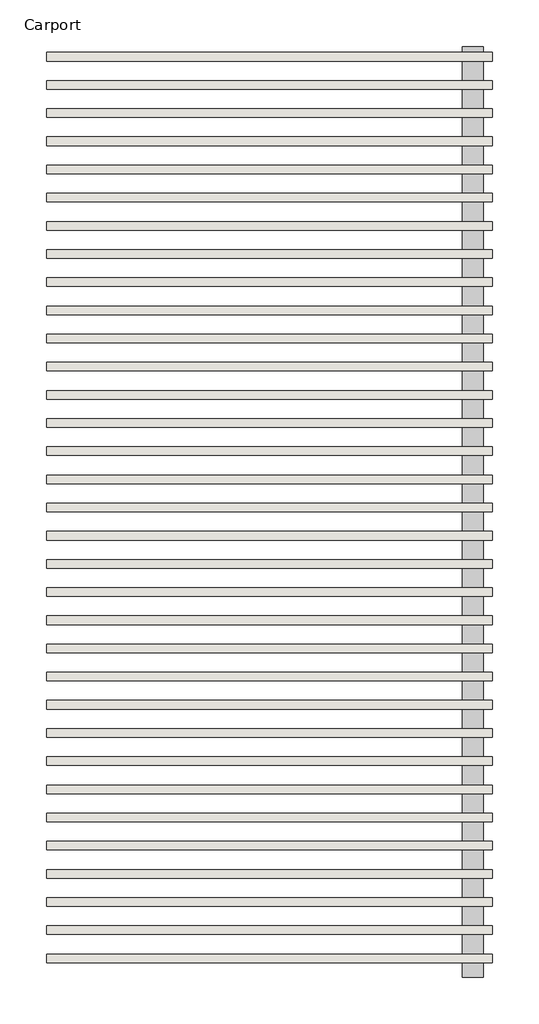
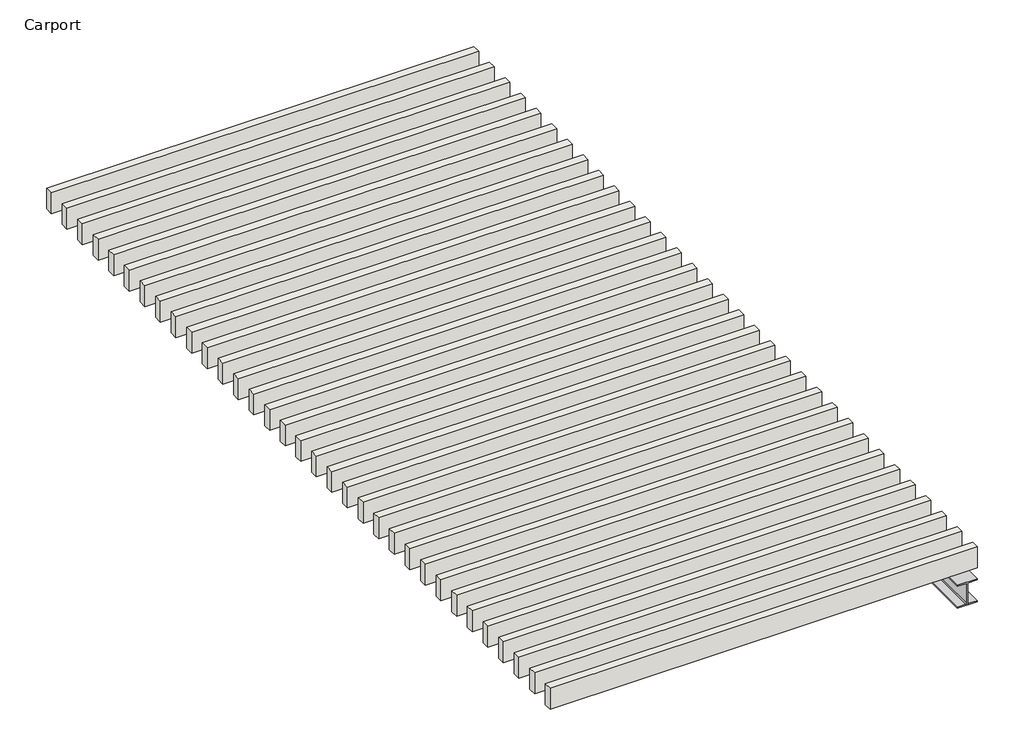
# One storey: 33 walls, 1 beam.
"""IFC4 building model written with IfcOpenShell, lengths in millimetres."""

from ifc_helpers import new_model, si_unit, frame, origin, place, context, project, spatial, polyline, outline, extrude, transform, mapped, element, save
from components import ub_universal_beam_305x165x40ub_3905f666

model = new_model("IFC4")

# Units and contexts
model_context = context("Model", 3, world=origin())
ifc_project = project(units=[si_unit("LENGTHUNIT", "METRE", prefix="MILLI")], contexts=[model_context])

# Site, building, storey
site = spatial("IfcSite", under=ifc_project)
building = spatial("IfcBuilding", under=site)
storey = spatial("IfcBuildingStorey", under=building, Name="Carport", Elevation=2600.0)

# Beam
placement = place(None, origin())
ub_universal_beam_305x165x40ub_shape = ub_universal_beam_305x165x40ub_3905f666(model_context)
element("IfcBeam", 1, ObjectType="UB-Universal Beam : 305x165x40UB", at=placement, inside=storey, context=model_context, shape_type="MappedRepresentation", body=[
    mapped(ub_universal_beam_305x165x40ub_shape, transform((-16337.1447021, 13595.7254063, 2500.0), x_axis=(0.0, -1.0, 0.0), y_axis=(1.0, 0.0, 0.0), z_axis=(0.0, 0.0, 1.0))),
])

# Walls
element("IfcWall", 2, ObjectType="Interior - 79mm Partition (1-hr)", at=placement, inside=storey, context=model_context, shape_type="SweptSolid", body=[
    extrude(outline(polyline([(-19669.4697576, 17333.8504063), (-16187.1447021, 17333.8504063), (-16187.1447021, 17266.8504063), (-19669.4697576, 17266.8504063), (-19669.4697576, 17333.8504063)])), frame((0.0, 0.0, 2600.0), z_axis=(0.0, 0.0, 1.0), x_axis=(1.0, 0.0, 0.0)), (0.0, 0.0, 1.0), 180.0),
])
element("IfcWall", 3, ObjectType="Interior - 79mm Partition (1-hr)", at=placement, inside=storey, context=model_context, shape_type="SweptSolid", body=[
    extrude(outline(polyline([(-19669.4697576, 17113.8504063), (-16187.1447021, 17113.8504063), (-16187.1447021, 17046.8504063), (-19669.4697576, 17046.8504063), (-19669.4697576, 17113.8504063)])), frame((0.0, 0.0, 2600.0), z_axis=(0.0, 0.0, 1.0), x_axis=(1.0, 0.0, 0.0)), (0.0, 0.0, 1.0), 180.0),
])
element("IfcWall", 4, ObjectType="Interior - 79mm Partition (1-hr)", at=placement, inside=storey, context=model_context, shape_type="SweptSolid", body=[
    extrude(outline(polyline([(-19669.4697576, 16893.8504063), (-16187.1447021, 16893.8504063), (-16187.1447021, 16826.8504063), (-19669.4697576, 16826.8504063), (-19669.4697576, 16893.8504063)])), frame((0.0, 0.0, 2600.0), z_axis=(0.0, 0.0, 1.0), x_axis=(1.0, 0.0, 0.0)), (0.0, 0.0, 1.0), 180.0),
])
element("IfcWall", 5, ObjectType="Interior - 79mm Partition (1-hr)", at=placement, inside=storey, context=model_context, shape_type="SweptSolid", body=[
    extrude(outline(polyline([(-19669.4697576, 16673.8504063), (-16187.1447021, 16673.8504063), (-16187.1447021, 16606.8504063), (-19669.4697576, 16606.8504063), (-19669.4697576, 16673.8504063)])), frame((0.0, 0.0, 2600.0), z_axis=(0.0, 0.0, 1.0), x_axis=(1.0, 0.0, 0.0)), (0.0, 0.0, 1.0), 180.0),
])
element("IfcWall", 6, ObjectType="Interior - 79mm Partition (1-hr)", at=placement, inside=storey, context=model_context, shape_type="SweptSolid", body=[
    extrude(outline(polyline([(-19669.4697576, 16453.8504063), (-16187.1447021, 16453.8504063), (-16187.1447021, 16386.8504063), (-19669.4697576, 16386.8504063), (-19669.4697576, 16453.8504063)])), frame((0.0, 0.0, 2600.0), z_axis=(0.0, 0.0, 1.0), x_axis=(1.0, 0.0, 0.0)), (0.0, 0.0, 1.0), 180.0),
])
element("IfcWall", 7, ObjectType="Interior - 79mm Partition (1-hr)", at=placement, inside=storey, context=model_context, shape_type="SweptSolid", body=[
    extrude(outline(polyline([(-19669.4697576, 16233.8504063), (-16187.1447021, 16233.8504063), (-16187.1447021, 16166.8504063), (-19669.4697576, 16166.8504063), (-19669.4697576, 16233.8504063)])), frame((0.0, 0.0, 2600.0), z_axis=(0.0, 0.0, 1.0), x_axis=(1.0, 0.0, 0.0)), (0.0, 0.0, 1.0), 180.0),
])
element("IfcWall", 8, ObjectType="Interior - 79mm Partition (1-hr)", at=placement, inside=storey, context=model_context, shape_type="SweptSolid", body=[
    extrude(outline(polyline([(-19669.4697576, 16013.8504063), (-16187.1447021, 16013.8504063), (-16187.1447021, 15946.8504063), (-19669.4697576, 15946.8504063), (-19669.4697576, 16013.8504063)])), frame((0.0, 0.0, 2600.0), z_axis=(0.0, 0.0, 1.0), x_axis=(1.0, 0.0, 0.0)), (0.0, 0.0, 1.0), 180.0),
])
element("IfcWall", 9, ObjectType="Interior - 79mm Partition (1-hr)", at=placement, inside=storey, context=model_context, shape_type="SweptSolid", body=[
    extrude(outline(polyline([(-19669.4697576, 15793.8504063), (-16187.1447021, 15793.8504063), (-16187.1447021, 15726.8504063), (-19669.4697576, 15726.8504063), (-19669.4697576, 15793.8504063)])), frame((0.0, 0.0, 2600.0), z_axis=(0.0, 0.0, 1.0), x_axis=(1.0, 0.0, 0.0)), (0.0, 0.0, 1.0), 180.0),
])
element("IfcWall", 10, ObjectType="Interior - 79mm Partition (1-hr)", at=placement, inside=storey, context=model_context, shape_type="SweptSolid", body=[
    extrude(outline(polyline([(-19669.4697576, 15573.8504063), (-16187.1447021, 15573.8504063), (-16187.1447021, 15506.8504063), (-19669.4697576, 15506.8504063), (-19669.4697576, 15573.8504063)])), frame((0.0, 0.0, 2600.0), z_axis=(0.0, 0.0, 1.0), x_axis=(1.0, 0.0, 0.0)), (0.0, 0.0, 1.0), 180.0),
])
element("IfcWall", 11, ObjectType="Interior - 79mm Partition (1-hr)", at=placement, inside=storey, context=model_context, shape_type="SweptSolid", body=[
    extrude(outline(polyline([(-19669.4697576, 15353.8504063), (-16187.1447021, 15353.8504063), (-16187.1447021, 15286.8504063), (-19669.4697576, 15286.8504063), (-19669.4697576, 15353.8504063)])), frame((0.0, 0.0, 2600.0), z_axis=(0.0, 0.0, 1.0), x_axis=(1.0, 0.0, 0.0)), (0.0, 0.0, 1.0), 180.0),
])
element("IfcWall", 12, ObjectType="Interior - 79mm Partition (1-hr)", at=placement, inside=storey, context=model_context, shape_type="SweptSolid", body=[
    extrude(outline(polyline([(-19669.4697576, 15133.8504063), (-16187.1447021, 15133.8504063), (-16187.1447021, 15066.8504063), (-19669.4697576, 15066.8504063), (-19669.4697576, 15133.8504063)])), frame((0.0, 0.0, 2600.0), z_axis=(0.0, 0.0, 1.0), x_axis=(1.0, 0.0, 0.0)), (0.0, 0.0, 1.0), 180.0),
])
element("IfcWall", 13, ObjectType="Interior - 79mm Partition (1-hr)", at=placement, inside=storey, context=model_context, shape_type="SweptSolid", body=[
    extrude(outline(polyline([(-19669.4697576, 14913.8504063), (-16187.1447021, 14913.8504063), (-16187.1447021, 14846.8504063), (-19669.4697576, 14846.8504063), (-19669.4697576, 14913.8504063)])), frame((0.0, 0.0, 2600.0), z_axis=(0.0, 0.0, 1.0), x_axis=(1.0, 0.0, 0.0)), (0.0, 0.0, 1.0), 180.0),
])
element("IfcWall", 14, ObjectType="Interior - 79mm Partition (1-hr)", at=placement, inside=storey, context=model_context, shape_type="SweptSolid", body=[
    extrude(outline(polyline([(-19669.4697576, 14693.8504063), (-16187.1447021, 14693.8504063), (-16187.1447021, 14626.8504063), (-19669.4697576, 14626.8504063), (-19669.4697576, 14693.8504063)])), frame((0.0, 0.0, 2600.0), z_axis=(0.0, 0.0, 1.0), x_axis=(1.0, 0.0, 0.0)), (0.0, 0.0, 1.0), 180.0),
])
element("IfcWall", 15, ObjectType="Interior - 79mm Partition (1-hr)", at=placement, inside=storey, context=model_context, shape_type="SweptSolid", body=[
    extrude(outline(polyline([(-19669.4697576, 14473.8504063), (-16187.1447021, 14473.8504063), (-16187.1447021, 14406.8504063), (-19669.4697576, 14406.8504063), (-19669.4697576, 14473.8504063)])), frame((0.0, 0.0, 2600.0), z_axis=(0.0, 0.0, 1.0), x_axis=(1.0, 0.0, 0.0)), (0.0, 0.0, 1.0), 180.0),
])
element("IfcWall", 16, ObjectType="Interior - 79mm Partition (1-hr)", at=placement, inside=storey, context=model_context, shape_type="SweptSolid", body=[
    extrude(outline(polyline([(-19669.4697576, 14253.8504063), (-16187.1447021, 14253.8504063), (-16187.1447021, 14186.8504063), (-19669.4697576, 14186.8504063), (-19669.4697576, 14253.8504063)])), frame((0.0, 0.0, 2600.0), z_axis=(0.0, 0.0, 1.0), x_axis=(1.0, 0.0, 0.0)), (0.0, 0.0, 1.0), 180.0),
])
element("IfcWall", 17, ObjectType="Interior - 79mm Partition (1-hr)", at=placement, inside=storey, context=model_context, shape_type="SweptSolid", body=[
    extrude(outline(polyline([(-19669.4697576, 14033.8504063), (-16187.1447021, 14033.8504063), (-16187.1447021, 13966.8504063), (-19669.4697576, 13966.8504063), (-19669.4697576, 14033.8504063)])), frame((0.0, 0.0, 2600.0), z_axis=(0.0, 0.0, 1.0), x_axis=(1.0, 0.0, 0.0)), (0.0, 0.0, 1.0), 180.0),
])
element("IfcWall", 18, ObjectType="Interior - 79mm Partition (1-hr)", at=placement, inside=storey, context=model_context, shape_type="SweptSolid", body=[
    extrude(outline(polyline([(-19669.4697576, 13813.8504063), (-16187.1447021, 13813.8504063), (-16187.1447021, 13746.8504063), (-19669.4697576, 13746.8504063), (-19669.4697576, 13813.8504063)])), frame((0.0, 0.0, 2600.0), z_axis=(0.0, 0.0, 1.0), x_axis=(1.0, 0.0, 0.0)), (0.0, 0.0, 1.0), 180.0),
])
element("IfcWall", 19, ObjectType="Interior - 79mm Partition (1-hr)", at=placement, inside=storey, context=model_context, shape_type="SweptSolid", body=[
    extrude(outline(polyline([(-19669.4697576, 13593.8504063), (-16187.1447021, 13593.8504063), (-16187.1447021, 13526.8504063), (-19669.4697576, 13526.8504063), (-19669.4697576, 13593.8504063)])), frame((0.0, 0.0, 2600.0), z_axis=(0.0, 0.0, 1.0), x_axis=(1.0, 0.0, 0.0)), (0.0, 0.0, 1.0), 180.0),
])
element("IfcWall", 20, ObjectType="Interior - 79mm Partition (1-hr)", at=placement, inside=storey, context=model_context, shape_type="SweptSolid", body=[
    extrude(outline(polyline([(-19669.4697576, 13373.8504063), (-16187.1447021, 13373.8504063), (-16187.1447021, 13306.8504063), (-19669.4697576, 13306.8504063), (-19669.4697576, 13373.8504063)])), frame((0.0, 0.0, 2600.0), z_axis=(0.0, 0.0, 1.0), x_axis=(1.0, 0.0, 0.0)), (0.0, 0.0, 1.0), 180.0),
])
element("IfcWall", 21, ObjectType="Interior - 79mm Partition (1-hr)", at=placement, inside=storey, context=model_context, shape_type="SweptSolid", body=[
    extrude(outline(polyline([(-19669.4697576, 13153.8504063), (-16187.1447021, 13153.8504063), (-16187.1447021, 13086.8504063), (-19669.4697576, 13086.8504063), (-19669.4697576, 13153.8504063)])), frame((0.0, 0.0, 2600.0), z_axis=(0.0, 0.0, 1.0), x_axis=(1.0, 0.0, 0.0)), (0.0, 0.0, 1.0), 180.0),
])
element("IfcWall", 22, ObjectType="Interior - 79mm Partition (1-hr)", at=placement, inside=storey, context=model_context, shape_type="SweptSolid", body=[
    extrude(outline(polyline([(-19669.4697576, 12933.8504063), (-16187.1447021, 12933.8504063), (-16187.1447021, 12866.8504063), (-19669.4697576, 12866.8504063), (-19669.4697576, 12933.8504063)])), frame((0.0, 0.0, 2600.0), z_axis=(0.0, 0.0, 1.0), x_axis=(1.0, 0.0, 0.0)), (0.0, 0.0, 1.0), 180.0),
])
element("IfcWall", 23, ObjectType="Interior - 79mm Partition (1-hr)", at=placement, inside=storey, context=model_context, shape_type="SweptSolid", body=[
    extrude(outline(polyline([(-19669.4697576, 12713.8504063), (-16187.1447021, 12713.8504063), (-16187.1447021, 12646.8504063), (-19669.4697576, 12646.8504063), (-19669.4697576, 12713.8504063)])), frame((0.0, 0.0, 2600.0), z_axis=(0.0, 0.0, 1.0), x_axis=(1.0, 0.0, 0.0)), (0.0, 0.0, 1.0), 180.0),
])
element("IfcWall", 24, ObjectType="Interior - 79mm Partition (1-hr)", at=placement, inside=storey, context=model_context, shape_type="SweptSolid", body=[
    extrude(outline(polyline([(-19669.4697576, 12493.8504063), (-16187.1447021, 12493.8504063), (-16187.1447021, 12426.8504063), (-19669.4697576, 12426.8504063), (-19669.4697576, 12493.8504063)])), frame((0.0, 0.0, 2600.0), z_axis=(0.0, 0.0, 1.0), x_axis=(1.0, 0.0, 0.0)), (0.0, 0.0, 1.0), 180.0),
])
element("IfcWall", 25, ObjectType="Interior - 79mm Partition (1-hr)", at=placement, inside=storey, context=model_context, shape_type="SweptSolid", body=[
    extrude(outline(polyline([(-19669.4697576, 12273.8504063), (-16187.1447021, 12273.8504063), (-16187.1447021, 12206.8504063), (-19669.4697576, 12206.8504063), (-19669.4697576, 12273.8504063)])), frame((0.0, 0.0, 2600.0), z_axis=(0.0, 0.0, 1.0), x_axis=(1.0, 0.0, 0.0)), (0.0, 0.0, 1.0), 180.0),
])
element("IfcWall", 26, ObjectType="Interior - 79mm Partition (1-hr)", at=placement, inside=storey, context=model_context, shape_type="SweptSolid", body=[
    extrude(outline(polyline([(-19669.4697576, 12053.8504063), (-16187.1447021, 12053.8504063), (-16187.1447021, 11986.8504063), (-19669.4697576, 11986.8504063), (-19669.4697576, 12053.8504063)])), frame((0.0, 0.0, 2600.0), z_axis=(0.0, 0.0, 1.0), x_axis=(1.0, 0.0, 0.0)), (0.0, 0.0, 1.0), 180.0),
])
element("IfcWall", 27, ObjectType="Interior - 79mm Partition (1-hr)", at=placement, inside=storey, context=model_context, shape_type="SweptSolid", body=[
    extrude(outline(polyline([(-19669.4697576, 11833.8504063), (-16187.1447021, 11833.8504063), (-16187.1447021, 11766.8504063), (-19669.4697576, 11766.8504063), (-19669.4697576, 11833.8504063)])), frame((0.0, 0.0, 2600.0), z_axis=(0.0, 0.0, 1.0), x_axis=(1.0, 0.0, 0.0)), (0.0, 0.0, 1.0), 180.0),
])
element("IfcWall", 28, ObjectType="Interior - 79mm Partition (1-hr)", at=placement, inside=storey, context=model_context, shape_type="SweptSolid", body=[
    extrude(outline(polyline([(-19669.4697576, 11613.8504063), (-16187.1447021, 11613.8504063), (-16187.1447021, 11546.8504063), (-19669.4697576, 11546.8504063), (-19669.4697576, 11613.8504063)])), frame((0.0, 0.0, 2600.0), z_axis=(0.0, 0.0, 1.0), x_axis=(1.0, 0.0, 0.0)), (0.0, 0.0, 1.0), 180.0),
])
element("IfcWall", 29, ObjectType="Interior - 79mm Partition (1-hr)", at=placement, inside=storey, context=model_context, shape_type="SweptSolid", body=[
    extrude(outline(polyline([(-19669.4697576, 11393.8504063), (-16187.1447021, 11393.8504063), (-16187.1447021, 11326.8504063), (-19669.4697576, 11326.8504063), (-19669.4697576, 11393.8504063)])), frame((0.0, 0.0, 2600.0), z_axis=(0.0, 0.0, 1.0), x_axis=(1.0, 0.0, 0.0)), (0.0, 0.0, 1.0), 180.0),
])
element("IfcWall", 30, ObjectType="Interior - 79mm Partition (1-hr)", at=placement, inside=storey, context=model_context, shape_type="SweptSolid", body=[
    extrude(outline(polyline([(-19669.4697576, 11173.8504063), (-16187.1447021, 11173.8504063), (-16187.1447021, 11106.8504063), (-19669.4697576, 11106.8504063), (-19669.4697576, 11173.8504063)])), frame((0.0, 0.0, 2600.0), z_axis=(0.0, 0.0, 1.0), x_axis=(1.0, 0.0, 0.0)), (0.0, 0.0, 1.0), 180.0),
])
element("IfcWall", 31, ObjectType="Interior - 79mm Partition (1-hr)", at=placement, inside=storey, context=model_context, shape_type="SweptSolid", body=[
    extrude(outline(polyline([(-19669.4697576, 10953.8504063), (-16187.1447021, 10953.8504063), (-16187.1447021, 10886.8504063), (-19669.4697576, 10886.8504063), (-19669.4697576, 10953.8504063)])), frame((0.0, 0.0, 2600.0), z_axis=(0.0, 0.0, 1.0), x_axis=(1.0, 0.0, 0.0)), (0.0, 0.0, 1.0), 180.0),
])
element("IfcWall", 32, ObjectType="Interior - 79mm Partition (1-hr)", at=placement, inside=storey, context=model_context, shape_type="SweptSolid", body=[
    extrude(outline(polyline([(-19669.4697576, 10733.8504063), (-16187.1447021, 10733.8504063), (-16187.1447021, 10666.8504063), (-19669.4697576, 10666.8504063), (-19669.4697576, 10733.8504063)])), frame((0.0, 0.0, 2600.0), z_axis=(0.0, 0.0, 1.0), x_axis=(1.0, 0.0, 0.0)), (0.0, 0.0, 1.0), 180.0),
])
element("IfcWall", 33, ObjectType="Interior - 79mm Partition (1-hr)", at=placement, inside=storey, context=model_context, shape_type="SweptSolid", body=[
    extrude(outline(polyline([(-19669.4697576, 10513.8504063), (-16187.1447021, 10513.8504063), (-16187.1447021, 10446.8504063), (-19669.4697576, 10446.8504063), (-19669.4697576, 10513.8504063)])), frame((0.0, 0.0, 2600.0), z_axis=(0.0, 0.0, 1.0), x_axis=(1.0, 0.0, 0.0)), (0.0, 0.0, 1.0), 180.0),
])
element("IfcWall", 34, ObjectType="Interior - 79mm Partition (1-hr)", at=placement, inside=storey, context=model_context, shape_type="SweptSolid", body=[
    extrude(outline(polyline([(-19669.4697576, 10293.8504063), (-16187.1447021, 10293.8504063), (-16187.1447021, 10226.8504063), (-19669.4697576, 10226.8504063), (-19669.4697576, 10293.8504063)])), frame((0.0, 0.0, 2600.0), z_axis=(0.0, 0.0, 1.0), x_axis=(1.0, 0.0, 0.0)), (0.0, 0.0, 1.0), 180.0),
])

save(model, "model.ifc")
